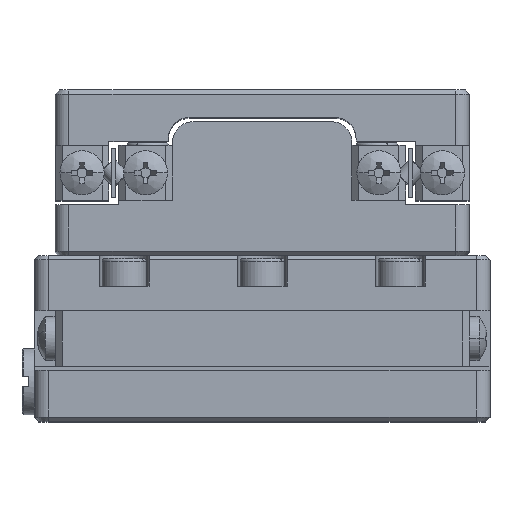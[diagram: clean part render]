
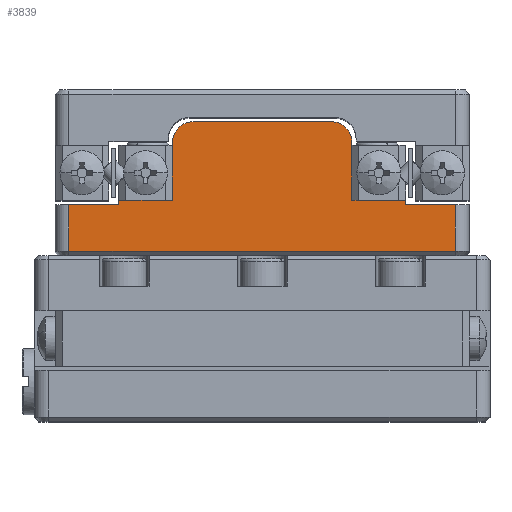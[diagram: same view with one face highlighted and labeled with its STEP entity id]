
A CAD part, top view. The second image highlights one B-rep face of the part: STEP entity #3839.
In plain terms, the highlighted planar face has unit normal (0, 0, 1).
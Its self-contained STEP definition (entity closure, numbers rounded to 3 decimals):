
#931 = EDGE_CURVE ( 'NONE', #34416, #69986, #4381, .T. ) ;
#1371 = EDGE_CURVE ( 'NONE', #69986, #85639, #14354, .T. ) ;
#1732 = DIRECTION ( 'NONE',  ( -1., 0., 0. ) ) ;
#2692 = VERTEX_POINT ( 'NONE', #92555 ) ;
#3839 = ADVANCED_FACE ( 'NONE', ( #38051 ), #81501, .F. ) ;
#3864 = LINE ( 'NONE', #90061, #40071 ) ;
#4379 = CARTESIAN_POINT ( 'NONE',  ( -71.05, 99.321, 16.588 ) ) ;
#4381 = LINE ( 'NONE', #38251, #79086 ) ;
#4549 = CARTESIAN_POINT ( 'NONE',  ( -91.05, 94.821, 16.588 ) ) ;
#5178 = LINE ( 'NONE', #38105, #87656 ) ;
#7328 = LINE ( 'NONE', #86172, #82120 ) ;
#7333 = ORIENTED_EDGE ( 'NONE', *, *, #68406, .F. ) ;
#7894 = ORIENTED_EDGE ( 'NONE', *, *, #79686, .F. ) ;
#8578 = VECTOR ( 'NONE', #41831, 1000. ) ;
#9285 = CARTESIAN_POINT ( 'NONE',  ( -91.05, 100.821, 16.588 ) ) ;
#10290 = ORIENTED_EDGE ( 'NONE', *, *, #60849, .F. ) ;
#10737 = CARTESIAN_POINT ( 'NONE',  ( -91.05, 95.121, 16.588 ) ) ;
#12750 = DIRECTION ( 'NONE',  ( 0., 0., -1. ) ) ;
#13189 = EDGE_LOOP ( 'NONE', ( #7894, #76480, #82965, #53214, #86109, #85280, #23266, #42047, #47326, #7333, #18499, #62357, #52844, #10290 ) ) ;
#14354 = LINE ( 'NONE', #14699, #28025 ) ;
#14438 = CARTESIAN_POINT ( 'NONE',  ( -65.65, 94.821, 16.588 ) ) ;
#14699 = CARTESIAN_POINT ( 'NONE',  ( -91.05, 94.821, 16.588 ) ) ;
#16431 = VECTOR ( 'NONE', #65529, 1000. ) ;
#18499 = ORIENTED_EDGE ( 'NONE', *, *, #1371, .F. ) ;
#19056 = CARTESIAN_POINT ( 'NONE',  ( -69.55, 99.321, 16.588 ) ) ;
#19241 = VERTEX_POINT ( 'NONE', #19056 ) ;
#20353 = CARTESIAN_POINT ( 'NONE',  ( -86.45, 100.821, 16.588 ) ) ;
#23106 = CARTESIAN_POINT ( 'NONE',  ( -90.05, 100.821, 16.588 ) ) ;
#23266 = ORIENTED_EDGE ( 'NONE', *, *, #24610, .F. ) ;
#24610 = EDGE_CURVE ( 'NONE', #72663, #42552, #59554, .T. ) ;
#25281 = DIRECTION ( 'NONE',  ( 1., 0., 0. ) ) ;
#25423 = VECTOR ( 'NONE', #25281, 1000. ) ;
#25917 = CARTESIAN_POINT ( 'NONE',  ( -69.55, 100.821, 16.588 ) ) ;
#28025 = VECTOR ( 'NONE', #65378, 1000. ) ;
#28618 = CARTESIAN_POINT ( 'NONE',  ( -65.65, 95.121, 16.588 ) ) ;
#32806 = DIRECTION ( 'NONE',  ( -1., 0., 0. ) ) ;
#32909 = DIRECTION ( 'NONE',  ( 0., -1., 0. ) ) ;
#33413 = VERTEX_POINT ( 'NONE', #50735 ) ;
#34416 = VERTEX_POINT ( 'NONE', #28618 ) ;
#35277 = VERTEX_POINT ( 'NONE', #46841 ) ;
#38051 = FACE_OUTER_BOUND ( 'NONE', #13189, .T. ) ;
#38105 = CARTESIAN_POINT ( 'NONE',  ( -82.55, 100.821, 16.588 ) ) ;
#38251 = CARTESIAN_POINT ( 'NONE',  ( -65.65, 100.821, 16.588 ) ) ;
#38786 = CARTESIAN_POINT ( 'NONE',  ( -90.05, 91.421, 16.588 ) ) ;
#40071 = VECTOR ( 'NONE', #68541, 1000. ) ;
#41831 = DIRECTION ( 'NONE',  ( 1., 0., 0. ) ) ;
#42047 = ORIENTED_EDGE ( 'NONE', *, *, #70776, .F. ) ;
#42552 = VERTEX_POINT ( 'NONE', #89682 ) ;
#42672 = DIRECTION ( 'NONE',  ( 1., 0., 0. ) ) ;
#44598 = CARTESIAN_POINT ( 'NONE',  ( -86.45, 95.121, 16.588 ) ) ;
#44723 = LINE ( 'NONE', #10737, #25423 ) ;
#45292 = EDGE_CURVE ( 'NONE', #42552, #73642, #79104, .T. ) ;
#46841 = CARTESIAN_POINT ( 'NONE',  ( -69.55, 95.121, 16.588 ) ) ;
#47326 = ORIENTED_EDGE ( 'NONE', *, *, #48281, .F. ) ;
#47425 = AXIS2_PLACEMENT_3D ( 'NONE', #9285, #52779, #1732 ) ;
#47955 = EDGE_CURVE ( 'NONE', #90511, #33413, #5178, .T. ) ;
#48271 = CARTESIAN_POINT ( 'NONE',  ( -82.55, 95.121, 16.588 ) ) ;
#48281 = EDGE_CURVE ( 'NONE', #2692, #92937, #7328, .T. ) ;
#48451 = CIRCLE ( 'NONE', #75594, 1.5 ) ;
#49702 = VECTOR ( 'NONE', #88485, 1000. ) ;
#50735 = CARTESIAN_POINT ( 'NONE',  ( -82.55, 99.321, 16.588 ) ) ;
#51337 = EDGE_CURVE ( 'NONE', #33413, #55079, #48451, .T. ) ;
#52779 = DIRECTION ( 'NONE',  ( 0., 0., -1. ) ) ;
#52844 = ORIENTED_EDGE ( 'NONE', *, *, #88382, .F. ) ;
#53214 = ORIENTED_EDGE ( 'NONE', *, *, #47955, .F. ) ;
#53399 = DIRECTION ( 'NONE',  ( 0., 1., 0. ) ) ;
#53806 = EDGE_CURVE ( 'NONE', #55079, #57652, #61570, .T. ) ;
#53970 = CIRCLE ( 'NONE', #69054, 1.5 ) ;
#54493 = CARTESIAN_POINT ( 'NONE',  ( -90.05, 94.821, 16.588 ) ) ;
#55052 = LINE ( 'NONE', #23106, #16431 ) ;
#55079 = VERTEX_POINT ( 'NONE', #59530 ) ;
#56266 = CARTESIAN_POINT ( 'NONE',  ( -81.05, 99.321, 16.588 ) ) ;
#57652 = VERTEX_POINT ( 'NONE', #75553 ) ;
#59530 = CARTESIAN_POINT ( 'NONE',  ( -81.05, 100.821, 16.588 ) ) ;
#59554 = LINE ( 'NONE', #4549, #8578 ) ;
#60849 = EDGE_CURVE ( 'NONE', #19241, #35277, #72148, .T. ) ;
#61570 = LINE ( 'NONE', #85143, #79732 ) ;
#62357 = ORIENTED_EDGE ( 'NONE', *, *, #931, .F. ) ;
#65323 = VECTOR ( 'NONE', #32909, 1000. ) ;
#65378 = DIRECTION ( 'NONE',  ( 1., 0., 0. ) ) ;
#65449 = VECTOR ( 'NONE', #70678, 1000. ) ;
#65485 = LINE ( 'NONE', #73030, #49702 ) ;
#65529 = DIRECTION ( 'NONE',  ( 0., 1., 0. ) ) ;
#66403 = DIRECTION ( 'NONE',  ( 0., -1., 0. ) ) ;
#68406 = EDGE_CURVE ( 'NONE', #85639, #2692, #65485, .T. ) ;
#68541 = DIRECTION ( 'NONE',  ( 1., 0., 0. ) ) ;
#69054 = AXIS2_PLACEMENT_3D ( 'NONE', #4379, #90076, #32806 ) ;
#69164 = CARTESIAN_POINT ( 'NONE',  ( -62.05, 94.821, 16.588 ) ) ;
#69986 = VERTEX_POINT ( 'NONE', #14438 ) ;
#70678 = DIRECTION ( 'NONE',  ( 0., 1., 0. ) ) ;
#70776 = EDGE_CURVE ( 'NONE', #92937, #72663, #55052, .T. ) ;
#70923 = EDGE_CURVE ( 'NONE', #73642, #90511, #44723, .T. ) ;
#72148 = LINE ( 'NONE', #25917, #65323 ) ;
#72663 = VERTEX_POINT ( 'NONE', #54493 ) ;
#73030 = CARTESIAN_POINT ( 'NONE',  ( -62.05, 100.821, 16.588 ) ) ;
#73642 = VERTEX_POINT ( 'NONE', #44598 ) ;
#75553 = CARTESIAN_POINT ( 'NONE',  ( -71.05, 100.821, 16.588 ) ) ;
#75594 = AXIS2_PLACEMENT_3D ( 'NONE', #56266, #12750, #78008 ) ;
#76480 = ORIENTED_EDGE ( 'NONE', *, *, #53806, .F. ) ;
#78008 = DIRECTION ( 'NONE',  ( 1., 0., 0. ) ) ;
#78578 = DIRECTION ( 'NONE',  ( -1., 0., 0. ) ) ;
#79086 = VECTOR ( 'NONE', #66403, 1000. ) ;
#79104 = LINE ( 'NONE', #20353, #65449 ) ;
#79686 = EDGE_CURVE ( 'NONE', #57652, #19241, #53970, .T. ) ;
#79732 = VECTOR ( 'NONE', #42672, 1000. ) ;
#81501 = PLANE ( 'NONE',  #47425 ) ;
#82120 = VECTOR ( 'NONE', #78578, 1000. ) ;
#82965 = ORIENTED_EDGE ( 'NONE', *, *, #51337, .F. ) ;
#85143 = CARTESIAN_POINT ( 'NONE',  ( -91.05, 100.821, 16.588 ) ) ;
#85280 = ORIENTED_EDGE ( 'NONE', *, *, #45292, .F. ) ;
#85639 = VERTEX_POINT ( 'NONE', #69164 ) ;
#86109 = ORIENTED_EDGE ( 'NONE', *, *, #70923, .F. ) ;
#86172 = CARTESIAN_POINT ( 'NONE',  ( -91.05, 91.421, 16.588 ) ) ;
#87656 = VECTOR ( 'NONE', #53399, 1000. ) ;
#88382 = EDGE_CURVE ( 'NONE', #35277, #34416, #3864, .T. ) ;
#88485 = DIRECTION ( 'NONE',  ( 0., -1., 0. ) ) ;
#89682 = CARTESIAN_POINT ( 'NONE',  ( -86.45, 94.821, 16.588 ) ) ;
#90061 = CARTESIAN_POINT ( 'NONE',  ( -91.05, 95.121, 16.588 ) ) ;
#90076 = DIRECTION ( 'NONE',  ( 0., 0., -1. ) ) ;
#90511 = VERTEX_POINT ( 'NONE', #48271 ) ;
#92555 = CARTESIAN_POINT ( 'NONE',  ( -62.05, 91.421, 16.588 ) ) ;
#92937 = VERTEX_POINT ( 'NONE', #38786 ) ;
